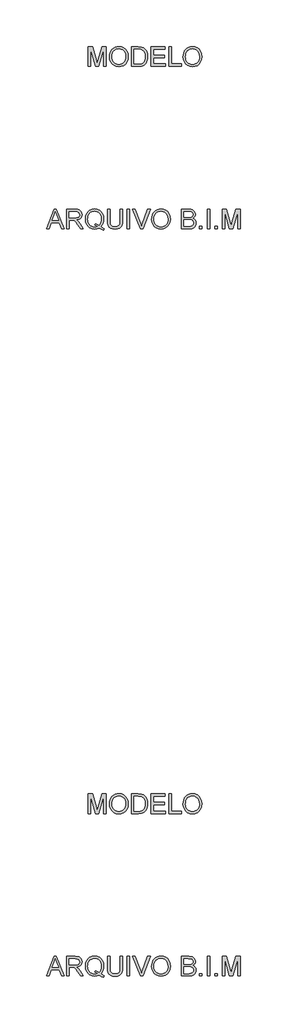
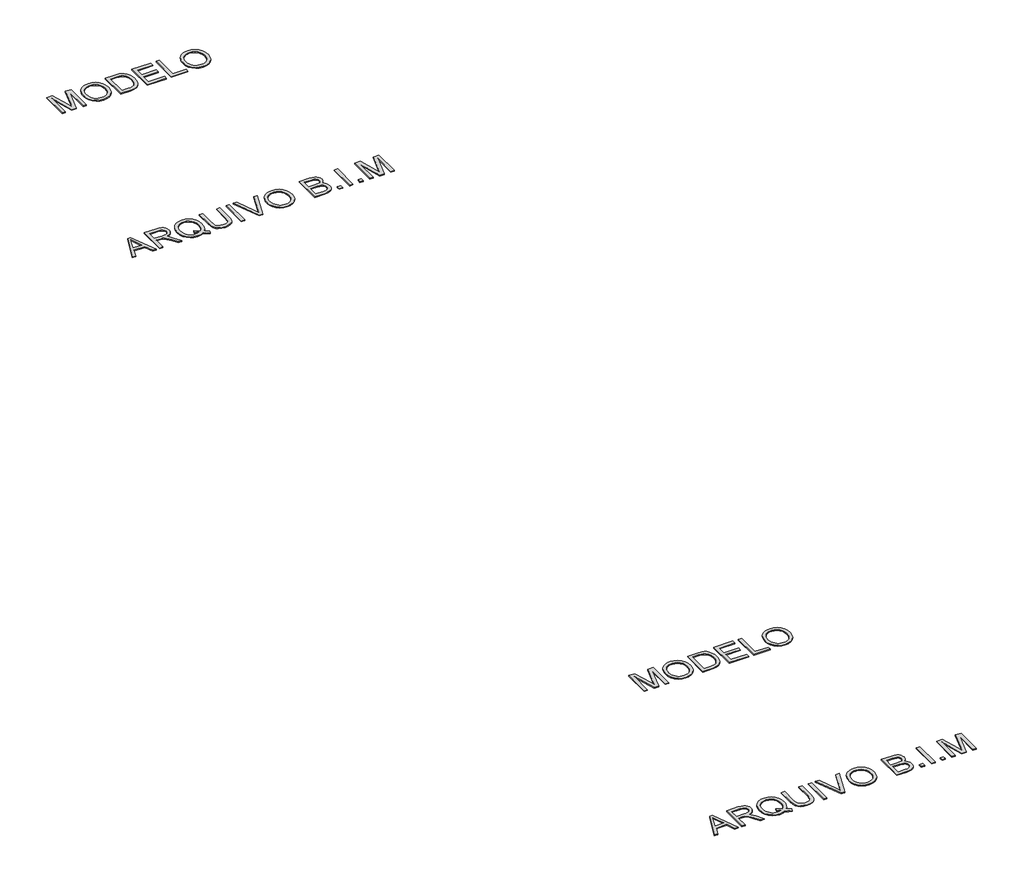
# One storey, part 9 of 19: 4 proxies.
"""IFC4 building model written with IfcOpenShell, lengths in millimetres."""

from ifc_helpers import new_model, si_unit, origin, origin_with_axes, place, context, project, spatial, polyline, outline, extrude, element, save

model = new_model("IFC4")

# Units and contexts
model_context = context("Model", 3, world=origin())
ifc_project = project(units=[si_unit("LENGTHUNIT", "METRE", prefix="MILLI")], contexts=[model_context])

# Site, building, storey
site = spatial("IfcSite", under=ifc_project)
building = spatial("IfcBuilding", under=site)
storey = spatial("IfcBuildingStorey", under=building, Name="Marelli - Linha ACTIVE - Planta Baixa", Elevation=0.0)

# Proxies
placement = place(None, origin())
element("IfcBuildingElementProxy", 1, Name="300mm Arial", ObjectType="300mm Arial", at=placement, inside=storey, context=model_context, shape_type="SweptSolid", body=[
    extrude(outline(polyline([(-5609.419598, -74780.5663201), (-5489.1221856, -74479.1973896), (-5457.0428756, -74479.1973896), (-5336.7454632, -74780.5663201), (-5376.550295, -74780.5663201), (-5411.0576262, -74686.3885293), (-5535.1810114, -74686.3885293), (-5569.6147661, -74780.5663201), (-5609.419598, -74780.5663201)]), holes=[polyline([(-5521.3486483, -74648.717413), (-5424.8164128, -74648.717413), (-5451.9661041, -74574.6259792), (-5473.0825306, -74516.8685059), (-5491.8445123, -74568.1512561), (-5521.3486483, -74648.717413)])]), origin_with_axes(), (0.0, 0.0, 1.0), 10.0),
    extrude(outline(polyline([(-5296.4991729, -74780.5663201), (-5296.4991729, -74479.1973896), (-5166.6368286, -74479.1973896), (-5131.7340243, -74481.2299376), (-5106.3409696, -74487.3275817), (-5087.7813229, -74498.5847708), (-5073.3787428, -74516.0959537), (-5064.1357077, -74537.8101885), (-5061.054696, -74561.6765329), (-5066.1590587, -74591.3646099), (-5081.4721467, -74615.9759154), (-5093.0719259, -74626.0052983), (-5107.4538126, -74634.0205273), (-5144.5639089, -74644.0085235), (-5123.1531768, -74660.1217548), (-5092.6189712, -74698.8965171), (-5042.3662906, -74780.5663201), (-5086.144248, -74780.5663201), (-5125.3604687, -74718.0999573), (-5153.6873824, -74676.750021), (-5173.5897983, -74657.2154871), (-5191.5056515, -74650.0417882), (-5213.357842, -74648.717413), (-5258.8280566, -74648.717413), (-5258.8280566, -74780.5663201), (-5296.4991729, -74780.5663201)]), holes=[polyline([(-5258.8280566, -74611.0462967), (-5174.5095033, -74611.0462967), (-5150.293671, -74609.7127245), (-5131.5040981, -74605.7120078), (-5117.3590353, -74598.7774322), (-5107.0767336, -74588.6422832), (-5100.8135426, -74576.3826157), (-5098.7258123, -74563.0744845), (-5102.7081349, -74544.6987789), (-5114.6551027, -74529.8915286), (-5135.2105092, -74520.1242616), (-5165.0181478, -74516.8685059), (-5258.8280566, -74516.8685059), (-5258.8280566, -74611.0462967)])]), origin_with_axes(), (0.0, 0.0, 1.0), 10.0),
    extrude(outline(polyline([(-4768.7356626, -74744.4403081), (-4744.4002686, -74763.036743), (-4722.0146492, -74775.8574305), (-4732.1681923, -74803.4485802), (-4763.2358268, -74789.0460001), (-4794.1930967, -74768.205485), (-4829.0499157, -74781.0077785), (-4867.4016137, -74785.2752096), (-4905.9372527, -74780.3547879), (-4940.7572836, -74765.5935229), (-4969.9211287, -74741.9203165), (-4991.4882107, -74710.2640708), (-5004.814736, -74672.3630282), (-5009.2569111, -74629.9554312), (-5004.823933, -74587.511046), (-4991.5249989, -74549.0581805), (-4970.0406904, -74516.9512794), (-4941.0515892, -74493.5447874), (-4906.360317, -74479.2525719), (-4867.7694957, -74474.4885001), (-4828.8751718, -74479.3629365), (-4794.0091557, -74493.9862458), (-4765.0660397, -74517.3835407), (-4743.9404161, -74548.5799339), (-4731.0277581, -74585.9199564), (-4726.7235388, -74627.7481393), (-4729.3355009, -74662.5313819), (-4737.1713874, -74693.5990164), (-4750.2863806, -74720.9142546), (-4768.7356626, -74744.4403081)]), holes=[polyline([(-4857.0273415, -74694.3347804), (-4825.3527017, -74706.3093393), (-4799.784903, -74722.9559996), (-4784.3016695, -74705.4816049), (-4773.2422171, -74684.1076609), (-4766.6065456, -74658.8341679), (-4764.3946551, -74629.6611256), (-4767.521652, -74596.5057608), (-4776.9026429, -74567.8201623), (-4792.3077015, -74544.3308969), (-4813.5069014, -74526.7645316), (-4839.065503, -74515.8108452), (-4867.5487665, -74512.1596164), (-4889.033075, -74514.0059242), (-4908.6043972, -74519.5448474), (-4926.2627329, -74528.7763863), (-4942.0080823, -74541.7005406), (-4954.9483315, -74558.2897193), (-4964.1913666, -74578.5163313), (-4969.7371877, -74602.3803764), (-4971.5857948, -74629.8818548), (-4969.7578811, -74656.6659634), (-4964.2741401, -74680.1437324), (-4955.1345718, -74700.3151621), (-4942.3391761, -74717.1802523), (-4926.7018921, -74730.4906827), (-4909.0366585, -74739.9981331), (-4889.3434755, -74745.7026032), (-4867.6223429, -74747.6040933), (-4846.7082515, -74745.6727128), (-4827.081747, -74739.8785714), (-4846.3771577, -74729.853787), (-4866.7394261, -74723.1767288), (-4857.0273415, -74694.3347804)])]), origin_with_axes(), (0.0, 0.0, 1.0), 10.0),
    extrude(outline(polyline([(-4472.4435037, -74479.1973896), (-4434.7723874, -74479.1973896), (-4434.7723874, -74653.0584205), (-4437.3291673, -74693.7737604), (-4444.9995069, -74725.1265034), (-4459.3285106, -74749.3147446), (-4481.8612828, -74768.5365788), (-4512.6530058, -74781.0905519), (-4551.7588619, -74785.2752096), (-4590.0093923, -74781.6331779), (-4620.5895832, -74770.7070826), (-4643.5086315, -74752.8740029), (-4658.7757343, -74728.5110178), (-4667.3565818, -74695.8338995), (-4670.2168643, -74653.0584205), (-4670.2168643, -74479.1973896), (-4632.545748, -74479.1973896), (-4632.545748, -74651.7340454), (-4630.6879439, -74685.588386), (-4625.1145317, -74709.1604248), (-4615.0161709, -74725.4851883), (-4599.5835212, -74737.597703), (-4579.4603761, -74745.1024957), (-4555.290529, -74747.6040933), (-4516.9756192, -74742.6560805), (-4502.6328199, -74736.4710644), (-4491.499791, -74727.812042), (-4483.1626653, -74715.6351479), (-4477.2075755, -74698.8965171), (-4472.4435037, -74651.7340454), (-4472.4435037, -74479.1973896)])), origin_with_axes(), (0.0, 0.0, 1.0), 10.0),
    extrude(outline(polyline([(-4364.1390443, -74780.5663201), (-4364.1390443, -74479.1973896), (-4326.467928, -74479.1973896), (-4326.467928, -74780.5663201), (-4364.1390443, -74780.5663201)])), origin_with_axes(), (0.0, 0.0, 1.0), 10.0),
    extrude(outline(polyline([(-4162.0982526, -74780.5663201), (-4282.027783, -74479.1973896), (-4241.7079163, -74479.1973896), (-4161.436065, -74696.3213432), (-4145.1756808, -74745.2496485), (-4129.1360258, -74696.3213432), (-4048.6434453, -74479.1973896), (-4008.3235786, -74479.1973896), (-4123.1763375, -74780.5663201), (-4162.0982526, -74780.5663201)])), origin_with_axes(), (0.0, 0.0, 1.0), 10.0),
    extrude(outline(polyline([(-3987.4278813, -74633.8549804), (-3984.9170866, -74598.5061192), (-3977.3847028, -74567.213157), (-3964.8307297, -74539.9760937), (-3947.2551674, -74516.7949295), (-3925.711078, -74498.2858666), (-3901.2515239, -74485.0651074), (-3873.8765049, -74477.1326519), (-3843.5860211, -74474.4885001), (-3804.0571008, -74479.454907), (-3768.6116705, -74494.3541278), (-3739.1811109, -74518.1376988), (-3717.6968024, -74549.7571563), (-3704.5634152, -74587.68579), (-3700.1856194, -74630.3968896), (-3704.7933414, -74673.6782064), (-3718.6165074, -74712.140269), (-3740.8917622, -74743.8149087), (-3770.8557507, -74766.733957), (-3805.9976783, -74780.6398965), (-3843.8067503, -74785.2752096), (-3883.942676, -74780.1524528), (-3919.5904413, -74764.7841825), (-3948.9474246, -74740.5591531), (-3970.2110039, -74708.8661192), (-3983.1236619, -74672.3998164), (-3987.4278813, -74633.8549804)]), holes=[polyline([(-3949.7567649, -74634.2228624), (-3947.873669, -74659.1974513), (-3942.2243811, -74681.3669401), (-3932.8089013, -74700.7313286), (-3919.6272295, -74717.2906169), (-3903.6036694, -74730.5527628), (-3885.6625243, -74740.0257242), (-3865.8037944, -74745.709501), (-3844.0274795, -74747.6040933), (-3821.8786842, -74745.6911069), (-3801.7854294, -74739.9521478), (-3783.7477154, -74730.3872159), (-3767.7655419, -74716.9963113), (-3754.6804392, -74700.0875351), (-3745.3339373, -74679.9689885), (-3739.7260361, -74656.6406715), (-3737.8567357, -74630.102584), (-3741.0573091, -74596.7540812), (-3750.6590292, -74567.9305269), (-3766.4135756, -74544.358488), (-3788.0726281, -74526.7645316), (-3814.2014468, -74515.8108452), (-3843.3652919, -74512.1596164), (-3864.3851494, -74513.9185522), (-3883.8874937, -74519.1953595), (-3901.8723248, -74527.9900385), (-3918.3396426, -74540.302589), (-3932.0846336, -74556.7262208), (-3941.9024844, -74577.8541437), (-3947.7931948, -74603.6863575), (-3949.7567649, -74634.2228624)])]), origin_with_axes(), (0.0, 0.0, 1.0), 10.0),
    extrude(outline(polyline([(-3530.665596, -74780.5663201), (-3530.665596, -74479.1973896), (-3415.6656844, -74479.1973896), (-3384.0370298, -74481.4138786), (-3359.3429509, -74488.0633457), (-3340.4154222, -74499.3113377), (-3326.0864185, -74515.3234015), (-3317.0641126, -74534.1589597), (-3314.0566773, -74553.8774346), (-3316.585866, -74572.0232141), (-3324.1734321, -74589.0837416), (-3336.874558, -74604.0105535), (-3354.7444259, -74615.7551862), (-3333.3980732, -74626.9020107), (-3317.6251326, -74643.8613707), (-3307.8854568, -74665.5112261), (-3304.6388982, -74690.7295368), (-3306.8553872, -74711.7447958), (-3313.5048543, -74731.2333445), (-3323.4284711, -74747.8064284), (-3335.4674094, -74760.0752929), (-3350.2102804, -74768.9596431), (-3368.2456952, -74775.3791839), (-3416.5486011, -74780.5663201), (-3530.665596, -74780.5663201)]), holes=[polyline([(-3492.9944797, -74601.6285176), (-3424.2005466, -74601.6285176), (-3384.0278328, -74598.3911561), (-3369.9655435, -74592.8085468), (-3359.8579857, -74584.4484284), (-3353.7603416, -74573.4395597), (-3351.7277936, -74559.9106994), (-3353.6223859, -74546.7773121), (-3359.3061627, -74535.3361821), (-3368.5216067, -74526.4058467), (-3381.0112004, -74520.8048433), (-3429.424471, -74516.8685059), (-3492.9944797, -74516.8685059), (-3492.9944797, -74601.6285176)]), polyline([(-3492.9944797, -74742.8952038), (-3415.7392607, -74742.8952038), (-3387.7802291, -74741.4236758), (-3364.1254168, -74733.2199073), (-3348.4536438, -74716.4812765), (-3343.8459218, -74704.6538704), (-3342.3100145, -74691.0974188), (-3344.1126363, -74675.3520694), (-3349.5205016, -74661.814012), (-3358.9658718, -74651.2282076), (-3372.8810083, -74644.3396173), (-3392.5902862, -74640.5596298), (-3419.4180807, -74639.2996339), (-3492.9944797, -74639.2996339), (-3492.9944797, -74742.8952038)])]), origin_with_axes(), (0.0, 0.0, 1.0), 10.0),
    extrude(outline(polyline([(-3248.1322237, -74780.5663201), (-3248.1322237, -74742.8952038), (-3210.4611074, -74742.8952038), (-3210.4611074, -74780.5663201), (-3248.1322237, -74780.5663201)])), origin_with_axes(), (0.0, 0.0, 1.0), 10.0),
    extrude(outline(polyline([(-3130.4099853, -74780.5663201), (-3130.4099853, -74479.1973896), (-3092.738869, -74479.1973896), (-3092.738869, -74780.5663201), (-3130.4099853, -74780.5663201)])), origin_with_axes(), (0.0, 0.0, 1.0), 10.0),
    extrude(outline(polyline([(-3012.6877468, -74780.5663201), (-3012.6877468, -74742.8952038), (-2975.0166305, -74742.8952038), (-2975.0166305, -74780.5663201), (-3012.6877468, -74780.5663201)])), origin_with_axes(), (0.0, 0.0, 1.0), 10.0),
    extrude(outline(polyline([(-2899.6743979, -74780.5663201), (-2899.6743979, -74479.1973896), (-2834.8535904, -74479.1973896), (-2773.196568, -74691.6124536), (-2760.7621565, -74735.9790223), (-2747.2976755, -74687.9336337), (-2686.6707227, -74479.1973896), (-2621.8499152, -74479.1973896), (-2621.8499152, -74780.5663201), (-2659.5210315, -74780.5663201), (-2659.5210315, -74516.8685059), (-2735.2311461, -74780.5663201), (-2786.293167, -74780.5663201), (-2862.0032816, -74516.8685059), (-2862.0032816, -74780.5663201), (-2899.6743979, -74780.5663201)])), origin_with_axes(), (0.0, 0.0, 1.0), 10.0),
])
element("IfcBuildingElementProxy", 2, Name="300mm Arial", ObjectType="300mm Arial", at=placement, inside=storey, context=model_context, shape_type="SweptSolid", body=[
    extrude(outline(polyline([(-4966.8769052, -72280.5663201), (-4966.8769052, -71979.1973896), (-4902.0560977, -71979.1973896), (-4840.3990753, -72191.6124536), (-4827.9646638, -72235.9790223), (-4814.5001828, -72187.9336337), (-4753.87323, -71979.1973896), (-4689.0524225, -71979.1973896), (-4689.0524225, -72280.5663201), (-4726.7235388, -72280.5663201), (-4726.7235388, -72016.8685059), (-4802.4336534, -72280.5663201), (-4853.4956743, -72280.5663201), (-4929.2057889, -72016.8685059), (-4929.2057889, -72280.5663201), (-4966.8769052, -72280.5663201)])), origin_with_axes(), (0.0, 0.0, 1.0), 10.0),
    extrude(outline(polyline([(-4637.2546375, -72133.8549804), (-4634.7438429, -72098.5061192), (-4627.2114591, -72067.213157), (-4614.657486, -72039.9760937), (-4597.0819237, -72016.7949295), (-4575.5378343, -71998.2858666), (-4551.0782802, -71985.0651074), (-4523.7032612, -71977.1326519), (-4493.4127774, -71974.4885001), (-4453.883857, -71979.454907), (-4418.4384268, -71994.3541278), (-4389.0078672, -72018.1376988), (-4367.5235587, -72049.7571563), (-4354.3901714, -72087.68579), (-4350.0123757, -72130.3968896), (-4354.6200977, -72173.6782064), (-4368.4432637, -72212.140269), (-4390.7185185, -72243.8149087), (-4420.682507, -72266.733957), (-4455.8244346, -72280.6398965), (-4493.6335066, -72285.2752096), (-4533.7694323, -72280.1524528), (-4569.4171976, -72264.7841825), (-4598.7741808, -72240.5591531), (-4620.0377602, -72208.8661192), (-4632.9504182, -72172.3998164), (-4637.2546375, -72133.8549804)]), holes=[polyline([(-4599.5835212, -72134.2228624), (-4597.7004253, -72159.1974513), (-4592.0511374, -72181.3669401), (-4582.6356576, -72200.7313286), (-4569.4539858, -72217.2906169), (-4553.4304257, -72230.5527628), (-4535.4892806, -72240.0257242), (-4515.6305507, -72245.709501), (-4493.8542358, -72247.6040933), (-4471.7054404, -72245.6911069), (-4451.6121857, -72239.9521478), (-4433.5744716, -72230.3872159), (-4417.5922982, -72216.9963113), (-4404.5071955, -72200.0875351), (-4395.1606936, -72179.9689885), (-4389.5527924, -72156.6406715), (-4387.683492, -72130.102584), (-4390.8840654, -72096.7540812), (-4400.4857854, -72067.9305269), (-4416.2403319, -72044.358488), (-4437.8993843, -72026.7645316), (-4464.0282031, -72015.8108452), (-4493.1920482, -72012.1596164), (-4514.2119057, -72013.9185522), (-4533.71425, -72019.1953595), (-4551.699081, -72027.9900385), (-4568.1663988, -72040.302589), (-4581.9113899, -72056.7262208), (-4591.7292406, -72077.8541437), (-4597.6199511, -72103.6863575), (-4599.5835212, -72134.2228624)])]), origin_with_axes(), (0.0, 0.0, 1.0), 10.0),
    extrude(outline(polyline([(-4298.2145908, -72280.5663201), (-4298.2145908, -71979.1973896), (-4194.2511389, -71979.1973896), (-4140.4667912, -71983.5383972), (-4116.444097, -71991.9077126), (-4096.173799, -72005.0962821), (-4075.333284, -72028.0521186), (-4060.4892455, -72056.5997614), (-4051.6048953, -72090.1873876), (-4048.6434453, -72128.2631741), (-4050.6484021, -72160.6091985), (-4056.6632727, -72189.0740679), (-4065.8235344, -72213.3082943), (-4077.2646645, -72232.9623899), (-4090.4348399, -72248.477813), (-4104.7822377, -72260.2960221), (-4121.254154, -72269.0608107), (-4140.797885, -72275.4159721), (-4189.2479438, -72280.5663201), (-4298.2145908, -72280.5663201)]), holes=[polyline([(-4260.5434745, -72242.8952038), (-4193.8832569, -72242.8952038), (-4166.3105014, -72241.5340404), (-4145.39641, -72237.4505502), (-4129.6142724, -72230.8838566), (-4117.4373783, -72222.0730828), (-4104.3499764, -72205.7667134), (-4094.5183301, -72184.6594839), (-4088.3655037, -72158.6594239), (-4086.3145616, -72127.6745629), (-4090.3336724, -72086.6189322), (-4102.3910047, -72056.3054558), (-4120.2056904, -72035.4833349), (-4141.4968608, -72022.9017706), (-4163.1651104, -72018.3768221), (-4194.9133265, -72016.8685059), (-4260.5434745, -72016.8685059), (-4260.5434745, -72242.8952038)])]), origin_with_axes(), (0.0, 0.0, 1.0), 10.0),
    extrude(outline(polyline([(-3996.8456603, -72280.5663201), (-3996.8456603, -71979.1973896), (-3780.2367416, -71979.1973896), (-3780.2367416, -72016.8685059), (-3959.174544, -72016.8685059), (-3959.174544, -72106.3374072), (-3789.6545206, -72106.3374072), (-3789.6545206, -72144.0085235), (-3959.174544, -72144.0085235), (-3959.174544, -72242.8952038), (-3775.527852, -72242.8952038), (-3775.527852, -72280.5663201), (-3996.8456603, -72280.5663201)])), origin_with_axes(), (0.0, 0.0, 1.0), 10.0),
    extrude(outline(polyline([(-3719.0211776, -72280.5663201), (-3719.0211776, -71979.1973896), (-3681.3500613, -71979.1973896), (-3681.3500613, -72242.8952038), (-3530.665596, -72242.8952038), (-3530.665596, -72280.5663201), (-3719.0211776, -72280.5663201)])), origin_with_axes(), (0.0, 0.0, 1.0), 10.0),
    extrude(outline(polyline([(-3502.4122588, -72133.8549804), (-3499.9014642, -72098.5061192), (-3492.3690803, -72067.213157), (-3479.8151073, -72039.9760937), (-3462.2395449, -72016.7949295), (-3440.6954556, -71998.2858666), (-3416.2359014, -71985.0651074), (-3388.8608825, -71977.1326519), (-3358.5703987, -71974.4885001), (-3319.0414783, -71979.454907), (-3283.5960481, -71994.3541278), (-3254.1654885, -72018.1376988), (-3232.6811799, -72049.7571563), (-3219.5477927, -72087.68579), (-3215.169997, -72130.3968896), (-3219.777719, -72173.6782064), (-3233.6008849, -72212.140269), (-3255.8761397, -72243.8149087), (-3285.8401283, -72266.733957), (-3320.9820558, -72280.6398965), (-3358.7911279, -72285.2752096), (-3398.9270536, -72280.1524528), (-3434.5748189, -72264.7841825), (-3463.9318021, -72240.5591531), (-3485.1953814, -72208.8661192), (-3498.1080395, -72172.3998164), (-3502.4122588, -72133.8549804)]), holes=[polyline([(-3464.7411425, -72134.2228624), (-3462.8580465, -72159.1974513), (-3457.2087587, -72181.3669401), (-3447.7932788, -72200.7313286), (-3434.6116071, -72217.2906169), (-3418.5880469, -72230.5527628), (-3400.6469019, -72240.0257242), (-3380.7881719, -72245.709501), (-3359.0118571, -72247.6040933), (-3336.8630617, -72245.6911069), (-3316.769807, -72239.9521478), (-3298.7320929, -72230.3872159), (-3282.7499195, -72216.9963113), (-3269.6648168, -72200.0875351), (-3260.3183148, -72179.9689885), (-3254.7104137, -72156.6406715), (-3252.8411133, -72130.102584), (-3256.0416866, -72096.7540812), (-3265.6434067, -72067.9305269), (-3281.3979532, -72044.358488), (-3303.0570056, -72026.7645316), (-3329.1858243, -72015.8108452), (-3358.3496695, -72012.1596164), (-3379.369527, -72013.9185522), (-3398.8718713, -72019.1953595), (-3416.8567023, -72027.9900385), (-3433.3240201, -72040.302589), (-3447.0690112, -72056.7262208), (-3456.8868619, -72077.8541437), (-3462.7775724, -72103.6863575), (-3464.7411425, -72134.2228624)])]), origin_with_axes(), (0.0, 0.0, 1.0), 10.0),
])
element("IfcBuildingElementProxy", 3, Name="300mm Arial", ObjectType="300mm Arial", at=placement, inside=storey, context=model_context, shape_type="SweptSolid", body=[
    extrude(outline(polyline([(-5609.419598, -86280.5663201), (-5489.1221856, -85979.1973896), (-5457.0428756, -85979.1973896), (-5336.7454632, -86280.5663201), (-5376.550295, -86280.5663201), (-5411.0576262, -86186.3885293), (-5535.1810114, -86186.3885293), (-5569.6147661, -86280.5663201), (-5609.419598, -86280.5663201)]), holes=[polyline([(-5521.3486483, -86148.717413), (-5424.8164128, -86148.717413), (-5451.9661041, -86074.6259792), (-5473.0825306, -86016.8685059), (-5491.8445123, -86068.1512561), (-5521.3486483, -86148.717413)])]), origin_with_axes(), (0.0, 0.0, 1.0), 10.0),
    extrude(outline(polyline([(-5296.4991729, -86280.5663201), (-5296.4991729, -85979.1973896), (-5166.6368286, -85979.1973896), (-5131.7340243, -85981.2299376), (-5106.3409696, -85987.3275817), (-5087.7813229, -85998.5847708), (-5073.3787428, -86016.0959537), (-5064.1357077, -86037.8101885), (-5061.054696, -86061.6765329), (-5066.1590587, -86091.3646099), (-5081.4721467, -86115.9759154), (-5093.0719259, -86126.0052983), (-5107.4538126, -86134.0205273), (-5144.5639089, -86144.0085235), (-5123.1531768, -86160.1217548), (-5092.6189712, -86198.8965171), (-5042.3662906, -86280.5663201), (-5086.144248, -86280.5663201), (-5125.3604687, -86218.0999573), (-5153.6873824, -86176.750021), (-5173.5897983, -86157.2154871), (-5191.5056515, -86150.0417882), (-5213.357842, -86148.717413), (-5258.8280566, -86148.717413), (-5258.8280566, -86280.5663201), (-5296.4991729, -86280.5663201)]), holes=[polyline([(-5258.8280566, -86111.0462967), (-5174.5095033, -86111.0462967), (-5150.293671, -86109.7127245), (-5131.5040981, -86105.7120078), (-5117.3590353, -86098.7774322), (-5107.0767336, -86088.6422832), (-5100.8135426, -86076.3826157), (-5098.7258123, -86063.0744845), (-5102.7081349, -86044.6987789), (-5114.6551027, -86029.8915286), (-5135.2105092, -86020.1242616), (-5165.0181478, -86016.8685059), (-5258.8280566, -86016.8685059), (-5258.8280566, -86111.0462967)])]), origin_with_axes(), (0.0, 0.0, 1.0), 10.0),
    extrude(outline(polyline([(-4768.7356626, -86244.4403081), (-4744.4002686, -86263.036743), (-4722.0146492, -86275.8574305), (-4732.1681923, -86303.4485802), (-4763.2358268, -86289.0460001), (-4794.1930967, -86268.205485), (-4829.0499157, -86281.0077785), (-4867.4016137, -86285.2752096), (-4905.9372527, -86280.3547879), (-4940.7572836, -86265.5935229), (-4969.9211287, -86241.9203165), (-4991.4882107, -86210.2640708), (-5004.814736, -86172.3630282), (-5009.2569111, -86129.9554312), (-5004.823933, -86087.511046), (-4991.5249989, -86049.0581805), (-4970.0406904, -86016.9512794), (-4941.0515892, -85993.5447874), (-4906.360317, -85979.2525719), (-4867.7694957, -85974.4885001), (-4828.8751718, -85979.3629365), (-4794.0091557, -85993.9862458), (-4765.0660397, -86017.3835407), (-4743.9404161, -86048.5799339), (-4731.0277581, -86085.9199564), (-4726.7235388, -86127.7481393), (-4729.3355009, -86162.5313819), (-4737.1713874, -86193.5990164), (-4750.2863806, -86220.9142546), (-4768.7356626, -86244.4403081)]), holes=[polyline([(-4857.0273415, -86194.3347804), (-4825.3527017, -86206.3093393), (-4799.784903, -86222.9559996), (-4784.3016695, -86205.4816049), (-4773.2422171, -86184.1076609), (-4766.6065456, -86158.8341679), (-4764.3946551, -86129.6611256), (-4767.521652, -86096.5057608), (-4776.9026429, -86067.8201623), (-4792.3077015, -86044.3308969), (-4813.5069014, -86026.7645316), (-4839.065503, -86015.8108452), (-4867.5487665, -86012.1596164), (-4889.033075, -86014.0059242), (-4908.6043972, -86019.5448474), (-4926.2627329, -86028.7763863), (-4942.0080823, -86041.7005406), (-4954.9483315, -86058.2897193), (-4964.1913666, -86078.5163313), (-4969.7371877, -86102.3803764), (-4971.5857948, -86129.8818548), (-4969.7578811, -86156.6659634), (-4964.2741401, -86180.1437324), (-4955.1345718, -86200.3151621), (-4942.3391761, -86217.1802523), (-4926.7018921, -86230.4906827), (-4909.0366585, -86239.9981331), (-4889.3434755, -86245.7026032), (-4867.6223429, -86247.6040933), (-4846.7082515, -86245.6727128), (-4827.081747, -86239.8785714), (-4846.3771577, -86229.853787), (-4866.7394261, -86223.1767288), (-4857.0273415, -86194.3347804)])]), origin_with_axes(), (0.0, 0.0, 1.0), 10.0),
    extrude(outline(polyline([(-4472.4435037, -85979.1973896), (-4434.7723874, -85979.1973896), (-4434.7723874, -86153.0584205), (-4437.3291673, -86193.7737604), (-4444.9995069, -86225.1265034), (-4459.3285106, -86249.3147446), (-4481.8612828, -86268.5365788), (-4512.6530058, -86281.0905519), (-4551.7588619, -86285.2752096), (-4590.0093923, -86281.6331779), (-4620.5895832, -86270.7070826), (-4643.5086315, -86252.8740029), (-4658.7757343, -86228.5110178), (-4667.3565818, -86195.8338995), (-4670.2168643, -86153.0584205), (-4670.2168643, -85979.1973896), (-4632.545748, -85979.1973896), (-4632.545748, -86151.7340454), (-4630.6879439, -86185.588386), (-4625.1145317, -86209.1604248), (-4615.0161709, -86225.4851883), (-4599.5835212, -86237.597703), (-4579.4603761, -86245.1024957), (-4555.290529, -86247.6040933), (-4516.9756192, -86242.6560805), (-4502.6328199, -86236.4710644), (-4491.499791, -86227.812042), (-4483.1626653, -86215.6351479), (-4477.2075755, -86198.8965171), (-4472.4435037, -86151.7340454), (-4472.4435037, -85979.1973896)])), origin_with_axes(), (0.0, 0.0, 1.0), 10.0),
    extrude(outline(polyline([(-4364.1390443, -86280.5663201), (-4364.1390443, -85979.1973896), (-4326.467928, -85979.1973896), (-4326.467928, -86280.5663201), (-4364.1390443, -86280.5663201)])), origin_with_axes(), (0.0, 0.0, 1.0), 10.0),
    extrude(outline(polyline([(-4162.0982526, -86280.5663201), (-4282.027783, -85979.1973896), (-4241.7079163, -85979.1973896), (-4161.436065, -86196.3213432), (-4145.1756808, -86245.2496485), (-4129.1360258, -86196.3213432), (-4048.6434453, -85979.1973896), (-4008.3235786, -85979.1973896), (-4123.1763375, -86280.5663201), (-4162.0982526, -86280.5663201)])), origin_with_axes(), (0.0, 0.0, 1.0), 10.0),
    extrude(outline(polyline([(-3987.4278813, -86133.8549804), (-3984.9170866, -86098.5061192), (-3977.3847028, -86067.213157), (-3964.8307297, -86039.9760937), (-3947.2551674, -86016.7949295), (-3925.711078, -85998.2858666), (-3901.2515239, -85985.0651074), (-3873.8765049, -85977.1326519), (-3843.5860211, -85974.4885001), (-3804.0571008, -85979.454907), (-3768.6116705, -85994.3541278), (-3739.1811109, -86018.1376988), (-3717.6968024, -86049.7571563), (-3704.5634152, -86087.68579), (-3700.1856194, -86130.3968896), (-3704.7933414, -86173.6782064), (-3718.6165074, -86212.140269), (-3740.8917622, -86243.8149087), (-3770.8557507, -86266.733957), (-3805.9976783, -86280.6398965), (-3843.8067503, -86285.2752096), (-3883.942676, -86280.1524528), (-3919.5904413, -86264.7841825), (-3948.9474246, -86240.5591531), (-3970.2110039, -86208.8661192), (-3983.1236619, -86172.3998164), (-3987.4278813, -86133.8549804)]), holes=[polyline([(-3949.7567649, -86134.2228624), (-3947.873669, -86159.1974513), (-3942.2243811, -86181.3669401), (-3932.8089013, -86200.7313286), (-3919.6272295, -86217.2906169), (-3903.6036694, -86230.5527628), (-3885.6625243, -86240.0257242), (-3865.8037944, -86245.709501), (-3844.0274795, -86247.6040933), (-3821.8786842, -86245.6911069), (-3801.7854294, -86239.9521478), (-3783.7477154, -86230.3872159), (-3767.7655419, -86216.9963113), (-3754.6804392, -86200.0875351), (-3745.3339373, -86179.9689885), (-3739.7260361, -86156.6406715), (-3737.8567357, -86130.102584), (-3741.0573091, -86096.7540812), (-3750.6590292, -86067.9305269), (-3766.4135756, -86044.358488), (-3788.0726281, -86026.7645316), (-3814.2014468, -86015.8108452), (-3843.3652919, -86012.1596164), (-3864.3851494, -86013.9185522), (-3883.8874937, -86019.1953595), (-3901.8723248, -86027.9900385), (-3918.3396426, -86040.302589), (-3932.0846336, -86056.7262208), (-3941.9024844, -86077.8541437), (-3947.7931948, -86103.6863575), (-3949.7567649, -86134.2228624)])]), origin_with_axes(), (0.0, 0.0, 1.0), 10.0),
    extrude(outline(polyline([(-3530.665596, -86280.5663201), (-3530.665596, -85979.1973896), (-3415.6656844, -85979.1973896), (-3384.0370298, -85981.4138786), (-3359.3429509, -85988.0633457), (-3340.4154222, -85999.3113377), (-3326.0864185, -86015.3234015), (-3317.0641126, -86034.1589597), (-3314.0566773, -86053.8774346), (-3316.585866, -86072.0232141), (-3324.1734321, -86089.0837416), (-3336.874558, -86104.0105535), (-3354.7444259, -86115.7551862), (-3333.3980732, -86126.9020107), (-3317.6251326, -86143.8613707), (-3307.8854568, -86165.5112261), (-3304.6388982, -86190.7295368), (-3306.8553872, -86211.7447958), (-3313.5048543, -86231.2333445), (-3323.4284711, -86247.8064284), (-3335.4674094, -86260.0752929), (-3350.2102804, -86268.9596431), (-3368.2456952, -86275.3791839), (-3416.5486011, -86280.5663201), (-3530.665596, -86280.5663201)]), holes=[polyline([(-3492.9944797, -86101.6285176), (-3424.2005466, -86101.6285176), (-3384.0278328, -86098.3911561), (-3369.9655435, -86092.8085468), (-3359.8579857, -86084.4484284), (-3353.7603416, -86073.4395597), (-3351.7277936, -86059.9106994), (-3353.6223859, -86046.7773121), (-3359.3061627, -86035.3361821), (-3368.5216067, -86026.4058467), (-3381.0112004, -86020.8048433), (-3429.424471, -86016.8685059), (-3492.9944797, -86016.8685059), (-3492.9944797, -86101.6285176)]), polyline([(-3492.9944797, -86242.8952038), (-3415.7392607, -86242.8952038), (-3387.7802291, -86241.4236758), (-3364.1254168, -86233.2199073), (-3348.4536438, -86216.4812765), (-3343.8459218, -86204.6538704), (-3342.3100145, -86191.0974188), (-3344.1126363, -86175.3520694), (-3349.5205016, -86161.814012), (-3358.9658718, -86151.2282076), (-3372.8810083, -86144.3396173), (-3392.5902862, -86140.5596298), (-3419.4180807, -86139.2996339), (-3492.9944797, -86139.2996339), (-3492.9944797, -86242.8952038)])]), origin_with_axes(), (0.0, 0.0, 1.0), 10.0),
    extrude(outline(polyline([(-3248.1322237, -86280.5663201), (-3248.1322237, -86242.8952038), (-3210.4611074, -86242.8952038), (-3210.4611074, -86280.5663201), (-3248.1322237, -86280.5663201)])), origin_with_axes(), (0.0, 0.0, 1.0), 10.0),
    extrude(outline(polyline([(-3130.4099853, -86280.5663201), (-3130.4099853, -85979.1973896), (-3092.738869, -85979.1973896), (-3092.738869, -86280.5663201), (-3130.4099853, -86280.5663201)])), origin_with_axes(), (0.0, 0.0, 1.0), 10.0),
    extrude(outline(polyline([(-3012.6877468, -86280.5663201), (-3012.6877468, -86242.8952038), (-2975.0166305, -86242.8952038), (-2975.0166305, -86280.5663201), (-3012.6877468, -86280.5663201)])), origin_with_axes(), (0.0, 0.0, 1.0), 10.0),
    extrude(outline(polyline([(-2899.6743979, -86280.5663201), (-2899.6743979, -85979.1973896), (-2834.8535904, -85979.1973896), (-2773.196568, -86191.6124536), (-2760.7621565, -86235.9790223), (-2747.2976755, -86187.9336337), (-2686.6707227, -85979.1973896), (-2621.8499152, -85979.1973896), (-2621.8499152, -86280.5663201), (-2659.5210315, -86280.5663201), (-2659.5210315, -86016.8685059), (-2735.2311461, -86280.5663201), (-2786.293167, -86280.5663201), (-2862.0032816, -86016.8685059), (-2862.0032816, -86280.5663201), (-2899.6743979, -86280.5663201)])), origin_with_axes(), (0.0, 0.0, 1.0), 10.0),
])
element("IfcBuildingElementProxy", 4, Name="300mm Arial", ObjectType="300mm Arial", at=placement, inside=storey, context=model_context, shape_type="SweptSolid", body=[
    extrude(outline(polyline([(-4966.8769052, -83780.5663201), (-4966.8769052, -83479.1973896), (-4902.0560977, -83479.1973896), (-4840.3990753, -83691.6124536), (-4827.9646638, -83735.9790223), (-4814.5001828, -83687.9336337), (-4753.87323, -83479.1973896), (-4689.0524225, -83479.1973896), (-4689.0524225, -83780.5663201), (-4726.7235388, -83780.5663201), (-4726.7235388, -83516.8685059), (-4802.4336534, -83780.5663201), (-4853.4956743, -83780.5663201), (-4929.2057889, -83516.8685059), (-4929.2057889, -83780.5663201), (-4966.8769052, -83780.5663201)])), origin_with_axes(), (0.0, 0.0, 1.0), 10.0),
    extrude(outline(polyline([(-4637.2546375, -83633.8549804), (-4634.7438429, -83598.5061192), (-4627.2114591, -83567.213157), (-4614.657486, -83539.9760937), (-4597.0819237, -83516.7949295), (-4575.5378343, -83498.2858666), (-4551.0782802, -83485.0651074), (-4523.7032612, -83477.1326519), (-4493.4127774, -83474.4885001), (-4453.883857, -83479.454907), (-4418.4384268, -83494.3541278), (-4389.0078672, -83518.1376988), (-4367.5235587, -83549.7571563), (-4354.3901714, -83587.68579), (-4350.0123757, -83630.3968896), (-4354.6200977, -83673.6782064), (-4368.4432637, -83712.140269), (-4390.7185185, -83743.8149087), (-4420.682507, -83766.733957), (-4455.8244346, -83780.6398965), (-4493.6335066, -83785.2752096), (-4533.7694323, -83780.1524528), (-4569.4171976, -83764.7841825), (-4598.7741808, -83740.5591531), (-4620.0377602, -83708.8661192), (-4632.9504182, -83672.3998164), (-4637.2546375, -83633.8549804)]), holes=[polyline([(-4599.5835212, -83634.2228624), (-4597.7004253, -83659.1974513), (-4592.0511374, -83681.3669401), (-4582.6356576, -83700.7313286), (-4569.4539858, -83717.2906169), (-4553.4304257, -83730.5527628), (-4535.4892806, -83740.0257242), (-4515.6305507, -83745.709501), (-4493.8542358, -83747.6040933), (-4471.7054404, -83745.6911069), (-4451.6121857, -83739.9521478), (-4433.5744716, -83730.3872159), (-4417.5922982, -83716.9963113), (-4404.5071955, -83700.0875351), (-4395.1606936, -83679.9689885), (-4389.5527924, -83656.6406715), (-4387.683492, -83630.102584), (-4390.8840654, -83596.7540812), (-4400.4857854, -83567.9305269), (-4416.2403319, -83544.358488), (-4437.8993843, -83526.7645316), (-4464.0282031, -83515.8108452), (-4493.1920482, -83512.1596164), (-4514.2119057, -83513.9185522), (-4533.71425, -83519.1953595), (-4551.699081, -83527.9900385), (-4568.1663988, -83540.302589), (-4581.9113899, -83556.7262208), (-4591.7292406, -83577.8541437), (-4597.6199511, -83603.6863575), (-4599.5835212, -83634.2228624)])]), origin_with_axes(), (0.0, 0.0, 1.0), 10.0),
    extrude(outline(polyline([(-4298.2145908, -83780.5663201), (-4298.2145908, -83479.1973896), (-4194.2511389, -83479.1973896), (-4140.4667912, -83483.5383972), (-4116.444097, -83491.9077126), (-4096.173799, -83505.0962821), (-4075.333284, -83528.0521186), (-4060.4892455, -83556.5997614), (-4051.6048953, -83590.1873876), (-4048.6434453, -83628.2631741), (-4050.6484021, -83660.6091985), (-4056.6632727, -83689.0740679), (-4065.8235344, -83713.3082943), (-4077.2646645, -83732.9623899), (-4090.4348399, -83748.477813), (-4104.7822377, -83760.2960221), (-4121.254154, -83769.0608107), (-4140.797885, -83775.4159721), (-4189.2479438, -83780.5663201), (-4298.2145908, -83780.5663201)]), holes=[polyline([(-4260.5434745, -83742.8952038), (-4193.8832569, -83742.8952038), (-4166.3105014, -83741.5340404), (-4145.39641, -83737.4505502), (-4129.6142724, -83730.8838566), (-4117.4373783, -83722.0730828), (-4104.3499764, -83705.7667134), (-4094.5183301, -83684.6594839), (-4088.3655037, -83658.6594239), (-4086.3145616, -83627.6745629), (-4090.3336724, -83586.6189322), (-4102.3910047, -83556.3054558), (-4120.2056904, -83535.4833349), (-4141.4968608, -83522.9017706), (-4163.1651104, -83518.3768221), (-4194.9133265, -83516.8685059), (-4260.5434745, -83516.8685059), (-4260.5434745, -83742.8952038)])]), origin_with_axes(), (0.0, 0.0, 1.0), 10.0),
    extrude(outline(polyline([(-3996.8456603, -83780.5663201), (-3996.8456603, -83479.1973896), (-3780.2367416, -83479.1973896), (-3780.2367416, -83516.8685059), (-3959.174544, -83516.8685059), (-3959.174544, -83606.3374072), (-3789.6545206, -83606.3374072), (-3789.6545206, -83644.0085235), (-3959.174544, -83644.0085235), (-3959.174544, -83742.8952038), (-3775.527852, -83742.8952038), (-3775.527852, -83780.5663201), (-3996.8456603, -83780.5663201)])), origin_with_axes(), (0.0, 0.0, 1.0), 10.0),
    extrude(outline(polyline([(-3719.0211776, -83780.5663201), (-3719.0211776, -83479.1973896), (-3681.3500613, -83479.1973896), (-3681.3500613, -83742.8952038), (-3530.665596, -83742.8952038), (-3530.665596, -83780.5663201), (-3719.0211776, -83780.5663201)])), origin_with_axes(), (0.0, 0.0, 1.0), 10.0),
    extrude(outline(polyline([(-3502.4122588, -83633.8549804), (-3499.9014642, -83598.5061192), (-3492.3690803, -83567.213157), (-3479.8151073, -83539.9760937), (-3462.2395449, -83516.7949295), (-3440.6954556, -83498.2858666), (-3416.2359014, -83485.0651074), (-3388.8608825, -83477.1326519), (-3358.5703987, -83474.4885001), (-3319.0414783, -83479.454907), (-3283.5960481, -83494.3541278), (-3254.1654885, -83518.1376988), (-3232.6811799, -83549.7571563), (-3219.5477927, -83587.68579), (-3215.169997, -83630.3968896), (-3219.777719, -83673.6782064), (-3233.6008849, -83712.140269), (-3255.8761397, -83743.8149087), (-3285.8401283, -83766.733957), (-3320.9820558, -83780.6398965), (-3358.7911279, -83785.2752096), (-3398.9270536, -83780.1524528), (-3434.5748189, -83764.7841825), (-3463.9318021, -83740.5591531), (-3485.1953814, -83708.8661192), (-3498.1080395, -83672.3998164), (-3502.4122588, -83633.8549804)]), holes=[polyline([(-3464.7411425, -83634.2228624), (-3462.8580465, -83659.1974513), (-3457.2087587, -83681.3669401), (-3447.7932788, -83700.7313286), (-3434.6116071, -83717.2906169), (-3418.5880469, -83730.5527628), (-3400.6469019, -83740.0257242), (-3380.7881719, -83745.709501), (-3359.0118571, -83747.6040933), (-3336.8630617, -83745.6911069), (-3316.769807, -83739.9521478), (-3298.7320929, -83730.3872159), (-3282.7499195, -83716.9963113), (-3269.6648168, -83700.0875351), (-3260.3183148, -83679.9689885), (-3254.7104137, -83656.6406715), (-3252.8411133, -83630.102584), (-3256.0416866, -83596.7540812), (-3265.6434067, -83567.9305269), (-3281.3979532, -83544.358488), (-3303.0570056, -83526.7645316), (-3329.1858243, -83515.8108452), (-3358.3496695, -83512.1596164), (-3379.369527, -83513.9185522), (-3398.8718713, -83519.1953595), (-3416.8567023, -83527.9900385), (-3433.3240201, -83540.302589), (-3447.0690112, -83556.7262208), (-3456.8868619, -83577.8541437), (-3462.7775724, -83603.6863575), (-3464.7411425, -83634.2228624)])]), origin_with_axes(), (0.0, 0.0, 1.0), 10.0),
])

save(model, "model.ifc")
